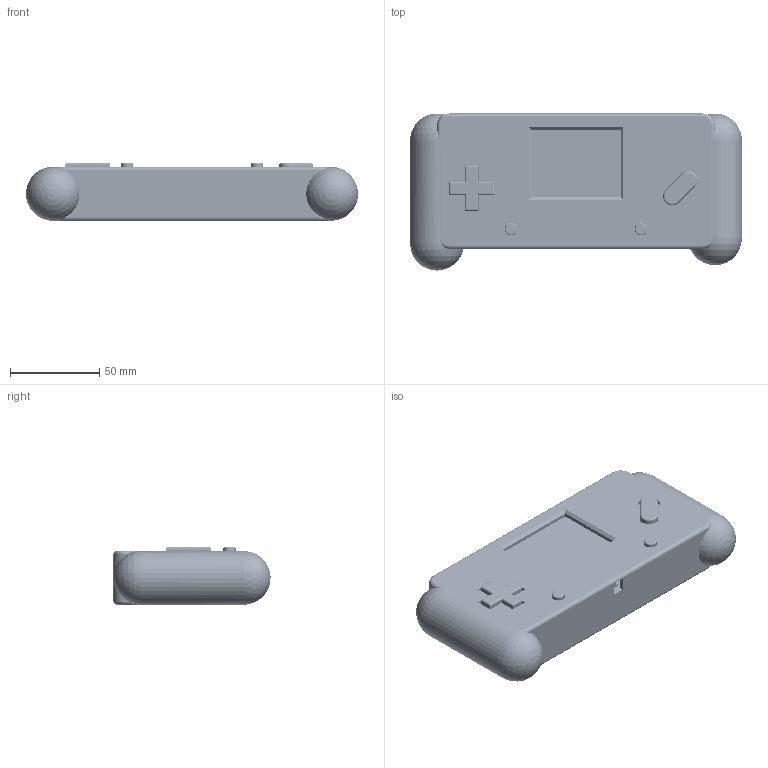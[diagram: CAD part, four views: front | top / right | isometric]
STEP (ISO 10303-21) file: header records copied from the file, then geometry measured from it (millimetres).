
FILE_DESCRIPTION(/* description */ (''),/* implementation_level */ '2;1');
FILE_NAME(/* name */ 'KIDBOX_Diseo_Final_step.step',/* time_stamp */ '2026-11-11T18:37:47-03:00',/* author */ (''),/* organization */ (''),/* preprocessor_version */ 'ST-DEVELOPER v20.2',/* originating_system */ 'Autodesk Translation Framework v15.17.0.0',/* authorisation */ '');
FILE_SCHEMA (('AUTOMOTIVE_DESIGN { 1 0 10303 214 3 1 1 }'));
Products named in the file (277): 2026-11-11-19-49-53-861; 2026-11-11-19-49-53-863; 2026-11-11-19-49-53-866; 2026-11-11-19-49-53-868; 2026-11-11-19-49-53-869; 2026-11-11-19-49-53-871; 2026-11-11-19-49-53-873; 2026-11-11-19-49-53-874; 2026-11-11-19-49-53-875; 2026-11-11-19-49-53-877; 2026-11-11-19-49-53-878; 2026-11-11-19-49-53-879; 2026-11-11-19-49-53-880; 2026-11-11-19-49-53-882; 2026-11-11-19-49-53-885; 2026-11-11-19-49-53-886; 2026-11-11-19-49-53-888; 2026-11-11-19-49-53-890; 2026-11-11-19-49-53-891; 2026-11-11-19-49-53-892; 2026-11-11-19-49-53-894; 2026-11-11-19-49-53-895; 2026-11-11-19-49-53-896; 2026-11-11-19-49-53-897; 2026-11-11-19-49-53-898; 2026-11-11-19-49-53-899; 2026-11-11-19-49-53-900; 2026-11-11-19-49-53-881; 2026-11-11-19-49-53-901; 2026-11-11-19-49-53-884; 2026-11-11-19-49-53-902; 2026-11-11-19-49-53-889; 2026-11-11-19-49-53-903; 2026-11-11-19-49-53-904; 2026-11-11-19-49-53-905; 2026-11-11-19-49-53-907; 2026-11-11-19-49-53-917; 2026-11-11-19-49-53-918; 2026-11-11-19-49-53-919; 2026-11-11-19-49-53-920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
Assembly tree (429 placements, depth 9):
  2026-11-11-19-49-53-861
    2026-11-11-19-49-53-863
      2026-11-11-19-49-53-866
        2026-11-11-19-49-53-868
        2026-11-11-19-49-53-869
        2026-11-11-19-49-53-871
        2026-11-11-19-49-53-873
        2026-11-11-19-49-53-874
      2026-11-11-19-49-53-875
        2026-11-11-19-49-53-877
        2026-11-11-19-49-53-878
        2026-11-11-19-49-53-879
        2026-11-11-19-49-53-880
          2026-11-11-19-49-53-881
        2026-11-11-19-49-53-882
          2026-11-11-19-49-53-884
        2026-11-11-19-49-53-885
          2026-11-11-19-49-53-886
        2026-11-11-19-49-53-888
          2026-11-11-19-49-53-889
        2026-11-11-19-49-53-890
          2026-11-11-19-49-53-891
        2026-11-11-19-49-53-892
          2026-11-11-19-49-53-894
        2026-11-11-19-49-53-895
        2026-11-11-19-49-53-896
          2026-11-11-19-49-53-881
        2026-11-11-19-49-53-897
          2026-11-11-19-49-53-881
        2026-11-11-19-49-53-898
          2026-11-11-19-49-53-881
        2026-11-11-19-49-53-899
          2026-11-11-19-49-53-881
        2026-11-11-19-49-53-900
          2026-11-11-19-49-53-881
        2026-11-11-19-49-53-901
          2026-11-11-19-49-53-884
        2026-11-11-19-49-53-902
          2026-11-11-19-49-53-889
      2026-11-11-19-49-53-903
      2026-11-11-19-49-53-904
      2026-11-11-19-49-53-905
        2026-11-11-19-49-53-906
        2026-11-11-19-49-53-907
          2026-11-11-19-49-53-908
          2026-11-11-19-49-53-909
          2026-11-11-19-49-53-910
          2026-11-11-19-49-53-911
          2026-11-11-19-49-53-912
        2026-11-11-19-49-53-913
        2026-11-11-19-49-53-914
        2026-11-11-19-49-53-915
        2026-11-11-19-49-53-916
      2026-11-11-19-49-53-917
        2026-11-11-19-49-53-918
          2026-11-11-19-49-53-908
          2026-11-11-19-49-53-909
          2026-11-11-19-49-53-910
          2026-11-11-19-49-53-911
          2026-11-11-19-49-53-912
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Bounding box: 186.3 x 88.15 x 32.3 mm (x, y, z)
Volume: 182317.1 mm3; surface area: 197557.7 mm2
Topology: 979 solids, 1155 shells, 21003 faces, 56118 edges, 37532 vertices
Faces by surface type: plane 12625, cylinder 5199, bspline 2401, sphere 534, torus 203, cone 41
Full cylindrical faces by diameter (mm): 0.05 x22, 0.249 x2, 0.3 x2, 0.35 x1, 0.5 x10, 0.53 x10, 0.561 x1, 0.6 x11, 0.73 x35, 0.762 x2, 0.8 x28, 0.9 x1, 0.93 x310, 1 x321, 1.02 x14, 1.03 x160, 1.1 x133, 1.5 x1, 1.6 x1, 2 x1, 2.13 x20, 2.2 x16, 2.4 x6, 2.6 x8, 2.8 x3, 3 x3, 3.2 x10, 3.5 x8, 4.5 x6, 4.7 x1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
Entity records: 488980 total; most frequent: CARTESIAN_POINT 108695, ORIENTED_EDGE 74940, DIRECTION 74298, EDGE_CURVE 39068, LINE 27226, VECTOR 27226, VERTEX_POINT 27007, AXIS2_PLACEMENT_3D 23536
